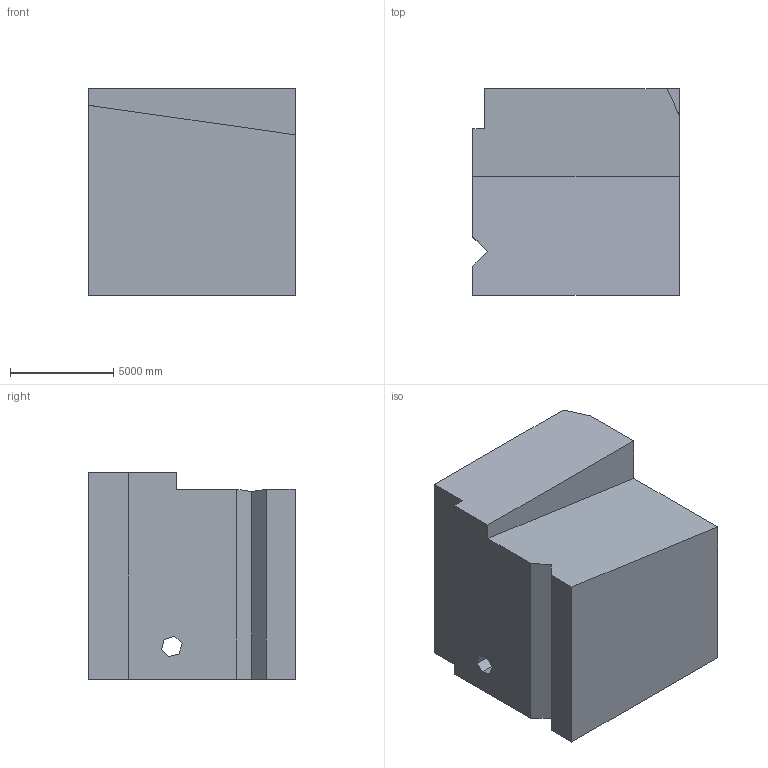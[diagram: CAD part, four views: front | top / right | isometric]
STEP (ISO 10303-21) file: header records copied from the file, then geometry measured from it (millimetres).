
FILE_DESCRIPTION (( 'STEP AP203' ), '1' );
FILE_NAME ('197.STEP', '2022-09-06T16:28:41', ( 'user' ), ( '' ), 'SwSTEP 2.0', 'SolidWorks 2021', '' );
FILE_SCHEMA (( 'CONFIG_CONTROL_DESIGN' ));
Length unit declared in the file: centimetre
Products named in the file (1): 197
Bounding box: 10000 x 10000 x 10000 mm (x, y, z)
Volume: 837962641531.1 mm3; surface area: 729647693.9 mm2
Topology: 1 solids, 1 shells, 50 faces, 136 edges, 90 vertices
Faces by surface type: plane 32, cylinder 18
Entity records: 2315 total; most frequent: CARTESIAN_POINT 953, ORIENTED_EDGE 272, DIRECTION 260, EDGE_CURVE 136, LINE 94, VECTOR 94, VERTEX_POINT 90, AXIS2_PLACEMENT_3D 83
